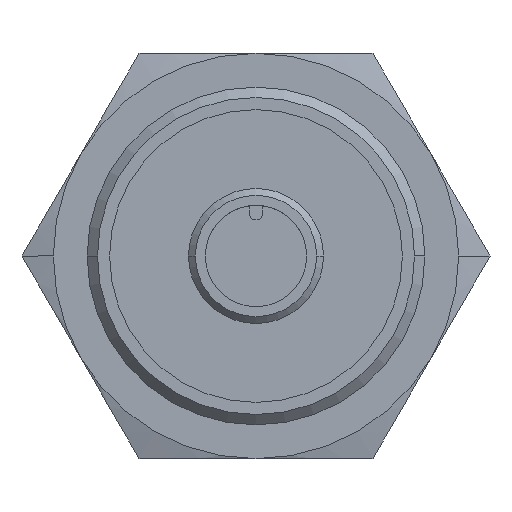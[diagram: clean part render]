
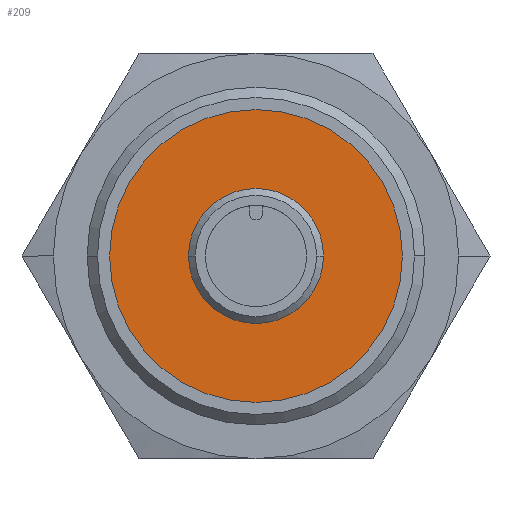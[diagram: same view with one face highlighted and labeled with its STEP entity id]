
A CAD part, left-side view. The second image highlights one B-rep face of the part: STEP entity #209.
In plain terms, the highlighted planar face has unit normal (-1, 0, 0).
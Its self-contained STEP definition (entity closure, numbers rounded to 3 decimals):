
#209 = ADVANCED_FACE( '', ( #356, #357 ), #358, .T. );
#356 = FACE_BOUND( '', #575, .T. );
#357 = FACE_OUTER_BOUND( '', #576, .T. );
#358 = PLANE( '', #577 );
#575 = EDGE_LOOP( '', ( #999, #1000 ) );
#576 = EDGE_LOOP( '', ( #1001, #1002 ) );
#577 = AXIS2_PLACEMENT_3D( '', #1003, #1004, #1005 );
#999 = ORIENTED_EDGE( '', *, *, #1531, .F. );
#1000 = ORIENTED_EDGE( '', *, *, #1563, .F. );
#1001 = ORIENTED_EDGE( '', *, *, #1502, .T. );
#1002 = ORIENTED_EDGE( '', *, *, #1581, .T. );
#1003 = CARTESIAN_POINT( '', ( 13., 9.193, 0. ) );
#1004 = DIRECTION( '', ( -1., 0., 0. ) );
#1005 = DIRECTION( '', ( 0., 1., 0. ) );
#1502 = EDGE_CURVE( '', #1738, #1742, #1744, .T. );
#1531 = EDGE_CURVE( '', #1796, #1799, #1800, .T. );
#1563 = EDGE_CURVE( '', #1799, #1796, #1849, .T. );
#1581 = EDGE_CURVE( '', #1742, #1738, #1871, .T. );
#1738 = VERTEX_POINT( '', #2108 );
#1742 = VERTEX_POINT( '', #2113 );
#1744 = CIRCLE( '', #2116, 13. );
#1796 = VERTEX_POINT( '', #2218 );
#1799 = VERTEX_POINT( '', #2222 );
#1800 = CIRCLE( '', #2223, 5.387 );
#1849 = CIRCLE( '', #2510, 5.387 );
#1871 = CIRCLE( '', #2555, 13. );
#2108 = CARTESIAN_POINT( '', ( 13., 13., 0. ) );
#2113 = CARTESIAN_POINT( '', ( 13., -13., 0. ) );
#2116 = AXIS2_PLACEMENT_3D( '', #3252, #3253, #3254 );
#2218 = CARTESIAN_POINT( '', ( 13., 5.387, 0. ) );
#2222 = CARTESIAN_POINT( '', ( 13., -5.387, 0. ) );
#2223 = AXIS2_PLACEMENT_3D( '', #3297, #3298, #3299 );
#2510 = AXIS2_PLACEMENT_3D( '', #3314, #3315, #3316 );
#2555 = AXIS2_PLACEMENT_3D( '', #3353, #3354, #3355 );
#3252 = CARTESIAN_POINT( '', ( 13., 0., 0. ) );
#3253 = DIRECTION( '', ( -1., 0., 0. ) );
#3254 = DIRECTION( '', ( 0., 1., 0. ) );
#3297 = CARTESIAN_POINT( '', ( 13., 0., 0. ) );
#3298 = DIRECTION( '', ( -1., 0., 0. ) );
#3299 = DIRECTION( '', ( 0., 1., 0. ) );
#3314 = CARTESIAN_POINT( '', ( 13., 0., 0. ) );
#3315 = DIRECTION( '', ( -1., 0., 0. ) );
#3316 = DIRECTION( '', ( 0., 1., 0. ) );
#3353 = CARTESIAN_POINT( '', ( 13., 0., 0. ) );
#3354 = DIRECTION( '', ( -1., 0., 0. ) );
#3355 = DIRECTION( '', ( 0., 1., 0. ) );
